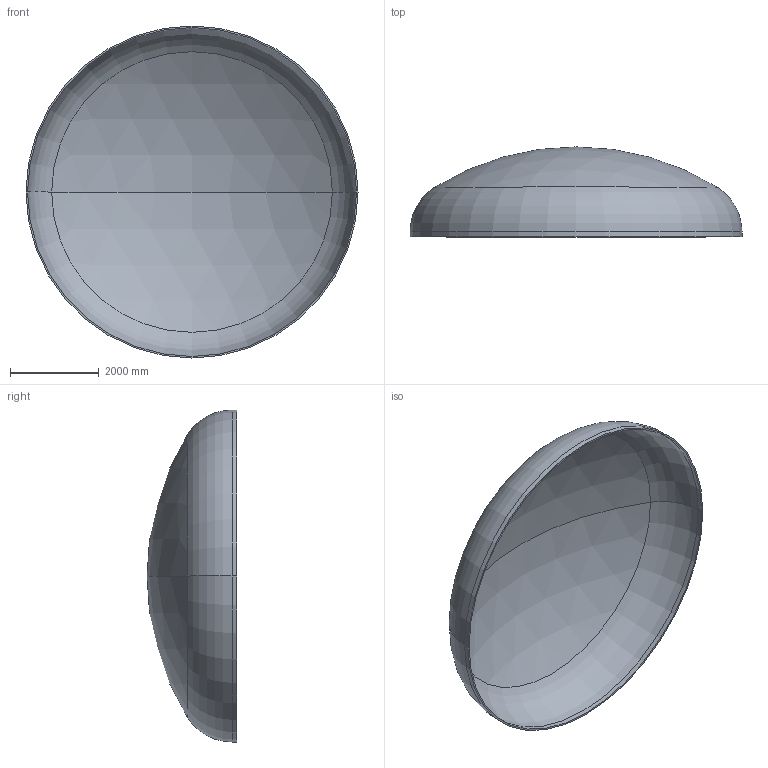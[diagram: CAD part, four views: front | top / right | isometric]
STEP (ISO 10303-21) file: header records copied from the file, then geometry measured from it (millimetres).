
FILE_DESCRIPTION (( 'STEP AP203' ), '1' );
FILE_NAME ('DIN 28013 Korbbogenform_-_Boden DIN 28013 - 7500 x 110 - I - s=35.step', '2016-07-04T10:53:20', ( '' ), ( '' ), 'SwSTEP 2.0', 'SolidWorks 2013', '' );
FILE_SCHEMA (( 'CONFIG_CONTROL_DESIGN' ));
Length unit declared in the file: millimetre
Products named in the file (1): DIN 28013 Korbbogenform_-_Boden DIN 28013 - 7500 x 110 - I - s=35
Bounding box: 7500 x 2031.56 x 7500 mm (x, y, z)
Volume: 2218742190.1 mm3; surface area: 127608602.9 mm2
Topology: 1 solids, 1 shells, 13 faces, 24 edges, 14 vertices
Faces by surface type: torus 4, cylinder 4, sphere 4, plane 1
Entity records: 407 total; most frequent: DIRECTION 72, CARTESIAN_POINT 52, ORIENTED_EDGE 48, AXIS2_PLACEMENT_3D 34, EDGE_CURVE 24, CIRCLE 20, VERTEX_POINT 14, EDGE_LOOP 14
